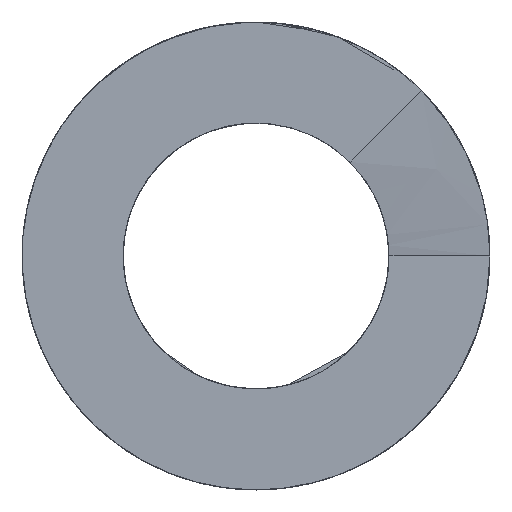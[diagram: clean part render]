
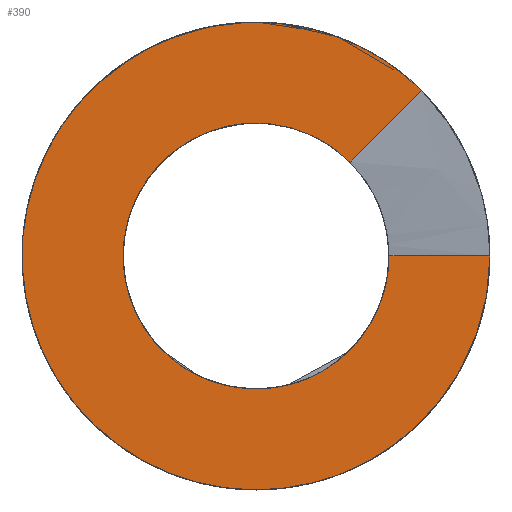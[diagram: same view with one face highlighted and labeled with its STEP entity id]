
A CAD part, front view. The second image highlights one B-rep face of the part: STEP entity #390.
In plain terms, the highlighted planar face has unit normal (0, -1, 0).
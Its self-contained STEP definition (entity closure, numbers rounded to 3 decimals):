
#36=LINE('',#2462,#44);
#44=VECTOR('',#461,10.);
#74=B_SPLINE_CURVE_WITH_KNOTS('',3,(#1863,#1864,#1865,#1866,#1867,#1868,
#1869,#1870,#1871,#1872,#1873,#1874,#1875,#1876,#1877,#1878,#1879,#1880,
#1881,#1882,#1883,#1884,#1885,#1886,#1887,#1888,#1889,#1890,#1891,#1892,
#1893,#1894,#1895,#1896,#1897,#1898,#1899,#1900,#1901,#1902,#1903,#1904),
 .UNSPECIFIED.,.F.,.F.,(4,2,2,2,2,2,2,2,2,2,2,2,2,2,2,2,2,2,2,2,4),(-4.933,
-4.705,-4.478,-4.132,-3.825,
-3.549,-3.308,-3.108,-2.946,
-2.897,-2.87,-2.836,-2.797,-2.447,
-2.098,-1.748,-1.399,-1.049,-0.699,
-0.35,0.),.UNSPECIFIED.);
#83=B_SPLINE_CURVE_WITH_KNOTS('',3,(#2352,#2353,#2354,#2355,#2356,#2357,
#2358,#2359,#2360,#2361,#2362,#2363,#2364,#2365,#2366,#2367,#2368,#2369,
#2370,#2371,#2372,#2373,#2374,#2375,#2376,#2377,#2378,#2379,#2380,#2381,
#2382,#2383,#2384,#2385,#2386,#2387,#2388,#2389,#2390,#2391,#2392,#2393),
 .UNSPECIFIED.,.F.,.F.,(4,2,2,2,2,2,2,2,2,2,2,2,2,2,2,2,2,2,2,2,4),(-8.682,
-8.361,-8.04,-7.424,-6.809,
-6.194,-5.579,-4.963,-4.348,
-3.733,-3.669,-3.62,-3.568,
-3.494,-3.231,-2.716,-2.304,
-1.853,-1.231,-0.615,0.),.UNSPECIFIED.);
#89=B_SPLINE_CURVE_WITH_KNOTS('',3,(#2456,#2457,#2458,#2459,#2460,#2461),
 .UNSPECIFIED.,.F.,.F.,(4,2,4),(-0.68,-0.34,0.),.UNSPECIFIED.);
#114=FACE_OUTER_BOUND('',#140,.T.);
#140=EDGE_LOOP('',(#335,#336,#337,#338));
#171=VERTEX_POINT('',#1577);
#178=VERTEX_POINT('',#1857);
#181=VERTEX_POINT('',#2005);
#186=VERTEX_POINT('',#2351);
#224=EDGE_CURVE('',#178,#171,#74,.T.);
#235=EDGE_CURVE('',#181,#186,#83,.T.);
#242=EDGE_CURVE('',#186,#178,#89,.T.);
#243=EDGE_CURVE('',#171,#181,#36,.T.);
#335=ORIENTED_EDGE('',*,*,#242,.F.);
#336=ORIENTED_EDGE('',*,*,#235,.F.);
#337=ORIENTED_EDGE('',*,*,#243,.F.);
#338=ORIENTED_EDGE('',*,*,#224,.F.);
#372=PLANE('',#429);
#390=ADVANCED_FACE('',(#114),#372,.F.);
#429=AXIS2_PLACEMENT_3D('',#2455,#459,#460);
#459=DIRECTION('center_axis',(0.,1.,0.));
#460=DIRECTION('ref_axis',(0.,0.,1.));
#461=DIRECTION('',(1.,0.,0.));
#1577=CARTESIAN_POINT('',(8.95,0.,0.));
#1857=CARTESIAN_POINT('',(6.329,0.,6.329));
#1863=CARTESIAN_POINT('Ctrl Pts',(6.329,0.,
6.329));
#1864=CARTESIAN_POINT('Ctrl Pts',(5.792,0.,
6.865));
#1865=CARTESIAN_POINT('Ctrl Pts',(5.19,0.,
7.331));
#1866=CARTESIAN_POINT('Ctrl Pts',(3.882,0.,
8.1));
#1867=CARTESIAN_POINT('Ctrl Pts',(3.182,0.,
8.399));
#1868=CARTESIAN_POINT('Ctrl Pts',(1.346,0.,
8.923));
#1869=CARTESIAN_POINT('Ctrl Pts',(0.188,0.,
9.022));
#1870=CARTESIAN_POINT('Ctrl Pts',(-1.977,0.,
8.789));
#1871=CARTESIAN_POINT('Ctrl Pts',(-2.97,0.,
8.505));
#1872=CARTESIAN_POINT('Ctrl Pts',(-4.72,0.,
7.659));
#1873=CARTESIAN_POINT('Ctrl Pts',(-5.48,0.,
7.135));
#1874=CARTESIAN_POINT('Ctrl Pts',(-6.733,0.,
5.951));
#1875=CARTESIAN_POINT('Ctrl Pts',(-7.241,0.,
5.322));
#1876=CARTESIAN_POINT('Ctrl Pts',(-8.003,0.,
4.062));
#1877=CARTESIAN_POINT('Ctrl Pts',(-8.284,0.,
3.454));
#1878=CARTESIAN_POINT('Ctrl Pts',(-8.664,0.,
2.31));
#1879=CARTESIAN_POINT('Ctrl Pts',(-8.787,0.,
1.784));
#1880=CARTESIAN_POINT('Ctrl Pts',(-8.885,0.,
1.089));
#1881=CARTESIAN_POINT('Ctrl Pts',(-8.903,0.,
0.926));
#1882=CARTESIAN_POINT('Ctrl Pts',(-8.925,0.,
0.674));
#1883=CARTESIAN_POINT('Ctrl Pts',(-8.931,0.,
0.584));
#1884=CARTESIAN_POINT('Ctrl Pts',(-8.943,0.,
0.38));
#1885=CARTESIAN_POINT('Ctrl Pts',(-8.947,0.,
0.266));
#1886=CARTESIAN_POINT('Ctrl Pts',(-8.951,0.,
0.023));
#1887=CARTESIAN_POINT('Ctrl Pts',(-8.95,0.,-0.106));
#1888=CARTESIAN_POINT('Ctrl Pts',(-8.916,0.,-1.4));
#1889=CARTESIAN_POINT('Ctrl Pts',(-8.658,0.,-2.548));
#1890=CARTESIAN_POINT('Ctrl Pts',(-7.717,0.,-4.68));
#1891=CARTESIAN_POINT('Ctrl Pts',(-7.043,0.,-5.644));
#1892=CARTESIAN_POINT('Ctrl Pts',(-5.363,0.,-7.26));
#1893=CARTESIAN_POINT('Ctrl Pts',(-4.373,0.,-7.896));
#1894=CARTESIAN_POINT('Ctrl Pts',(-2.205,0.,-8.752));
#1895=CARTESIAN_POINT('Ctrl Pts',(-1.048,0.,-8.965));
#1896=CARTESIAN_POINT('Ctrl Pts',(1.283,0.,-8.934));
#1897=CARTESIAN_POINT('Ctrl Pts',(2.434,0.,-8.691));
#1898=CARTESIAN_POINT('Ctrl Pts',(4.579,0.,-7.778));
#1899=CARTESIAN_POINT('Ctrl Pts',(5.551,0.,-7.116));
#1900=CARTESIAN_POINT('Ctrl Pts',(7.189,0.,-5.457));
#1901=CARTESIAN_POINT('Ctrl Pts',(7.837,0.,-4.476));
#1902=CARTESIAN_POINT('Ctrl Pts',(8.722,0.,-2.32));
#1903=CARTESIAN_POINT('Ctrl Pts',(8.95,0.,-1.165));
#1904=CARTESIAN_POINT('Ctrl Pts',(8.95,0.,0.));
#2005=CARTESIAN_POINT('',(15.75,0.,0.));
#2351=CARTESIAN_POINT('',(11.137,0.,11.137));
#2352=CARTESIAN_POINT('Ctrl Pts',(15.75,0.,0.));
#2353=CARTESIAN_POINT('Ctrl Pts',(15.75,0.,-1.07));
#2354=CARTESIAN_POINT('Ctrl Pts',(15.641,0.,-2.137));
#2355=CARTESIAN_POINT('Ctrl Pts',(15.208,0.,-4.232));
#2356=CARTESIAN_POINT('Ctrl Pts',(14.886,0.,-5.255));
#2357=CARTESIAN_POINT('Ctrl Pts',(13.65,0.,-8.121));
#2358=CARTESIAN_POINT('Ctrl Pts',(12.478,0.,-9.827));
#2359=CARTESIAN_POINT('Ctrl Pts',(9.545,0.,-12.695));
#2360=CARTESIAN_POINT('Ctrl Pts',(7.812,0.,-13.829));
#2361=CARTESIAN_POINT('Ctrl Pts',(4.01,0.,-15.368));
#2362=CARTESIAN_POINT('Ctrl Pts',(1.977,0.,-15.759));
#2363=CARTESIAN_POINT('Ctrl Pts',(-2.124,0.,-15.74));
#2364=CARTESIAN_POINT('Ctrl Pts',(-4.154,0.,-15.33));
#2365=CARTESIAN_POINT('Ctrl Pts',(-7.941,0.,-13.755));
#2366=CARTESIAN_POINT('Ctrl Pts',(-9.663,0.,-12.605));
#2367=CARTESIAN_POINT('Ctrl Pts',(-12.569,0.,-9.711));
#2368=CARTESIAN_POINT('Ctrl Pts',(-13.725,0.,-7.993));
#2369=CARTESIAN_POINT('Ctrl Pts',(-15.314,0.,-4.212));
#2370=CARTESIAN_POINT('Ctrl Pts',(-15.732,0.,-2.184));
#2371=CARTESIAN_POINT('Ctrl Pts',(-15.751,0.,0.079));
#2372=CARTESIAN_POINT('Ctrl Pts',(-15.749,0.,
0.29));
#2373=CARTESIAN_POINT('Ctrl Pts',(-15.737,0.,
0.667));
#2374=CARTESIAN_POINT('Ctrl Pts',(-15.729,0.,
0.832));
#2375=CARTESIAN_POINT('Ctrl Pts',(-15.707,0.,
1.169));
#2376=CARTESIAN_POINT('Ctrl Pts',(-15.694,0.,
1.342));
#2377=CARTESIAN_POINT('Ctrl Pts',(-15.653,0.,
1.76));
#2378=CARTESIAN_POINT('Ctrl Pts',(-15.624,0.,
2.005));
#2379=CARTESIAN_POINT('Ctrl Pts',(-15.463,0.,
3.117));
#2380=CARTESIAN_POINT('Ctrl Pts',(-15.266,0.,
3.973));
#2381=CARTESIAN_POINT('Ctrl Pts',(-14.474,0.,
6.444));
#2382=CARTESIAN_POINT('Ctrl Pts',(-13.686,0.,
7.982));
#2383=CARTESIAN_POINT('Ctrl Pts',(-11.849,0.,
10.466));
#2384=CARTESIAN_POINT('Ctrl Pts',(-10.893,0.,
11.458));
#2385=CARTESIAN_POINT('Ctrl Pts',(-8.645,0.,
13.251));
#2386=CARTESIAN_POINT('Ctrl Pts',(-7.341,0.,
14.015));
#2387=CARTESIAN_POINT('Ctrl Pts',(-4.028,0.,
15.367));
#2388=CARTESIAN_POINT('Ctrl Pts',(-1.971,0.,
15.763));
#2389=CARTESIAN_POINT('Ctrl Pts',(2.154,0.,
15.736));
#2390=CARTESIAN_POINT('Ctrl Pts',(4.183,0.,
15.322));
#2391=CARTESIAN_POINT('Ctrl Pts',(7.967,0.,
13.74));
#2392=CARTESIAN_POINT('Ctrl Pts',(9.687,0.,
12.587));
#2393=CARTESIAN_POINT('Ctrl Pts',(11.137,0.,
11.137));
#2455=CARTESIAN_POINT('Origin',(0.,0.,0.));
#2456=CARTESIAN_POINT('Ctrl Pts',(11.137,0.,
11.137));
#2457=CARTESIAN_POINT('Ctrl Pts',(10.336,0.,
10.336));
#2458=CARTESIAN_POINT('Ctrl Pts',(9.534,0.,
9.534));
#2459=CARTESIAN_POINT('Ctrl Pts',(7.931,0.,
7.931));
#2460=CARTESIAN_POINT('Ctrl Pts',(7.13,0.,
7.13));
#2461=CARTESIAN_POINT('Ctrl Pts',(6.329,0.,
6.329));
#2462=CARTESIAN_POINT('',(6.175,0.,0.));
